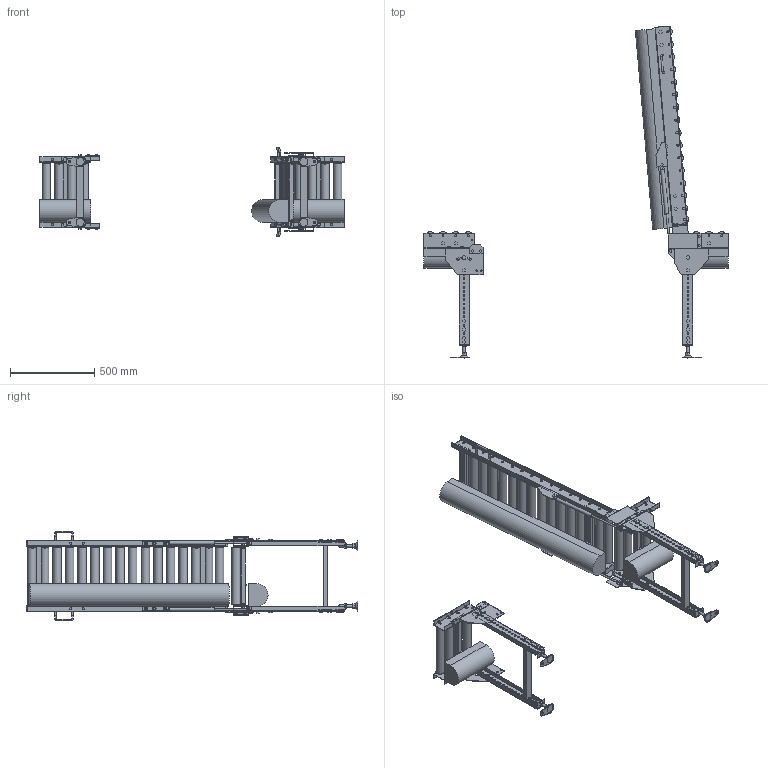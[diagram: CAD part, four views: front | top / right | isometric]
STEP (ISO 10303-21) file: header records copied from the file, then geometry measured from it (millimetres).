
FILE_DESCRIPTION (( 'STEP AP214' ), '1' );
FILE_NAME ('MCD50HU-R-355-75-1200.STEP', '2022-11-17T04:43:51', ( '' ), ( '' ), 'SwSTEP 2.0', 'SolidWorks 2017', '' );
FILE_SCHEMA (( 'AUTOMOTIVE_DESIGN' ));
Length unit declared in the file: millimetre
Products named in the file (1): MCD50HU-R-355-75-1200
Bounding box: 1800 x 1964.71 x 531.4 mm (x, y, z)
Volume: 47095365 mm3; surface area: 4742646.5 mm2
Topology: 5 solids, 31 shells, 2662 faces, 6656 edges, 4233 vertices
Faces by surface type: plane 2163, cylinder 481, cone 10, torus 8
Full cylindrical faces by diameter (mm): 8 x8, 8.5 x8, 9 x20, 10 x58, 10.5 x96, 11 x8, 12 x50, 13 x12, 14 x4, 15 x6, 15.4 x2, 15.7 x2, 16 x10, 17 x4, 18 x6, 18.4 x28, 18.5 x8, 21 x12, 22 x2, 50.8 x24
Entity records: 77110 total; most frequent: CARTESIAN_POINT 13166, DIRECTION 12922, ORIENTED_EDGE 12156, EDGE_CURVE 6078, VECTOR 4552, LINE 4552, AXIS2_PLACEMENT_3D 4185, VERTEX_POINT 4041
